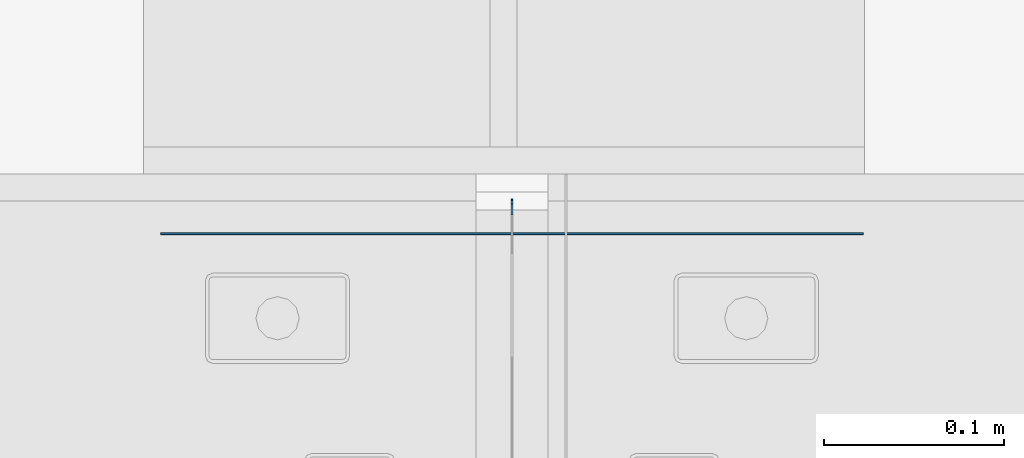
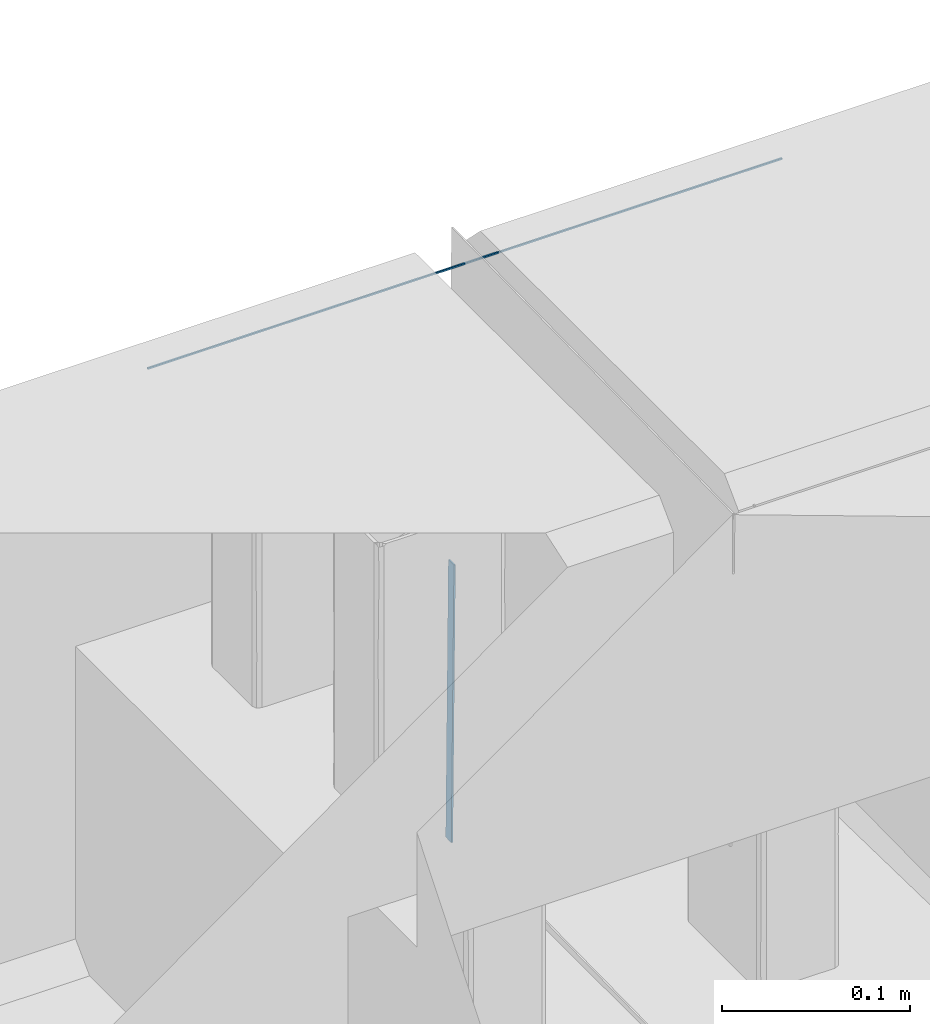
# One storey, part 51 of 186: 2 beams.
"""IFC4X3_ADD2 building model written with IfcOpenShell, lengths in millimetres."""

from ifc_helpers import new_model, si_unit, direction, frame, frame_2d, origin_with_axes, place, context, subcontext, project, spatial, rectangle, extrude, material, element, save


model = new_model("IFC4X3_ADD2")

# Units and contexts
model_context = context("Model", 3, precision=1e-05, world=origin_with_axes(), true_north=direction((0.0, 1.0)))
body_context = subcontext(model_context, "Body", "Model", "MODEL_VIEW")
ifc_project = project(units=[si_unit("LENGTHUNIT", "METRE", prefix="MILLI"), si_unit("AREAUNIT", "SQUARE_METRE"), si_unit("VOLUMEUNIT", "CUBIC_METRE"), si_unit("PLANEANGLEUNIT", "RADIAN"), si_unit("TIMEUNIT", "SECOND"), si_unit("MASSUNIT", "GRAM")], contexts=[model_context])

# Site, building, storey
site_placement = place(None, origin_with_axes())
site = spatial("IfcSite", under=ifc_project, at=site_placement, Name="Site", CompositionType="ELEMENT")
building_placement = place(site_placement, origin_with_axes())
building = spatial("IfcBuilding", under=site, at=building_placement, Name="IFC Building Story")
storey_placement = place(building_placement, frame((0.0, 0.0, 4370.0), z_axis=(0.0, 0.0, 1.0), x_axis=(1.0, 0.0, 0.0)))
storey = spatial("IfcBuildingStorey", under=building, at=storey_placement, Name="ETAGE 10 (1)", Elevation=4370.0)

# Beams
ifc_material_1 = material(Name="STEEL/Accessory_invisible 261")
beam_1_placement = place(storey_placement, frame((39966.6890204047, 26531.7964601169, 3053.12599656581), z_axis=(-1.0, 0.0, 0.0), x_axis=(0.0, -0.0155295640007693, 0.9998794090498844)))
element("IfcBeam", 1, at=beam_1_placement, inside=storey, material=ifc_material_1, Name="BEK4", ObjectType="6*1 6", context=body_context, shape_type="SweptSolid", body=[
    extrude(rectangle(XDim=182.073502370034, YDim=6.00000000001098, at=frame_2d((0.0, 5.95523630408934e-12), x_axis=(1.0, 0.0))), origin_with_axes(), (0.0, 0.0, 1.0), 1.0),
])
ifc_material_2 = material(Name="STEEL/Accessory_invisible")
beam_2_placement = place(storey_placement, frame((40161.1890204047, 26516.859688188, 3346.46615588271), z_axis=(-1.0, 0.0, 0.0), x_axis=(0.0, 1.0, 0.0)))
element("IfcBeam", 2, at=beam_2_placement, inside=storey, material=ifc_material_2, Name="ZW3", ObjectType="1*1 3", context=body_context, shape_type="SweptSolid", body=[
    extrude(rectangle(XDim=0.9999999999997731, YDim=0.9999999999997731, at=frame_2d((0.0, 5.95523630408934e-12), x_axis=(1.0, 0.0))), origin_with_axes(), (0.0, 0.0, 1.0), 389.9000000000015),
])

save(model, "model.ifc")
